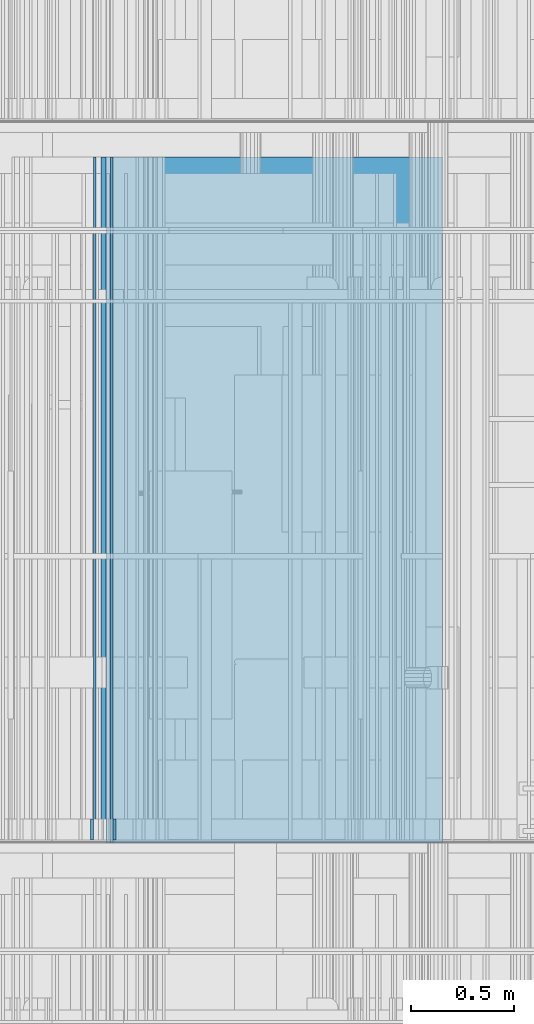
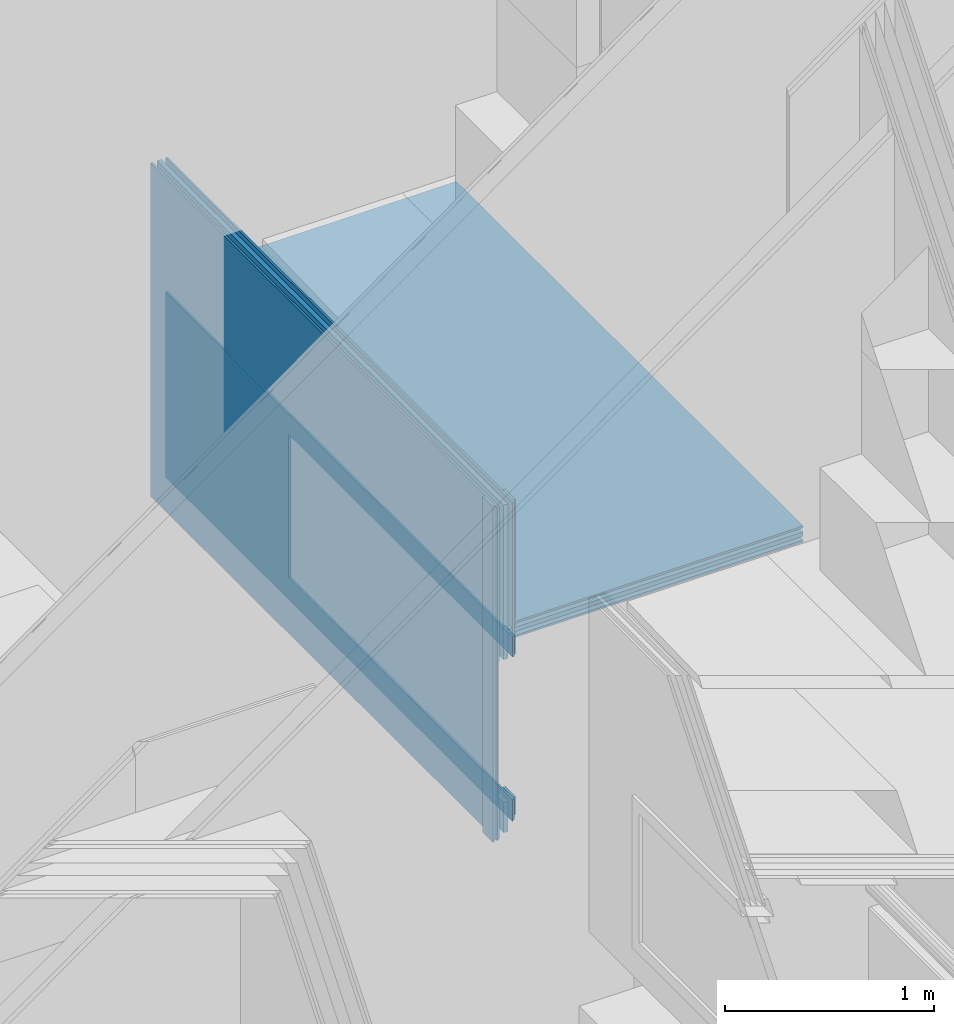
# One storey, part 80 of 583: 10 building element parts, 2 openings, 2 elements without a shape of their own.
"""IFC2X3 building model written with IfcOpenShell, lengths in metres."""

from ifc_helpers import new_model, entity, si_unit, converted_unit, derived_unit, money_unit, direction, frame, frame_2d, origin_with_axes, place, context, subcontext, project, spatial, polyline, rectangle, outline, extrude, material, type_object, element, aggregate, save


model = new_model("IFC2X3")

# Units and contexts
model_context = context("Model", 3, precision=1e-05, world=origin_with_axes(), true_north=direction((0.0, 1.0)))
body_context = subcontext(model_context, "Body", "Model", "MODEL_VIEW", scale=1.0)
ifc_project = project(units=[si_unit("LENGTHUNIT", "METRE"), si_unit("AREAUNIT", "SQUARE_METRE"), si_unit("VOLUMEUNIT", "CUBIC_METRE"), si_unit("ABSORBEDDOSEUNIT", "GRAY"), si_unit("AMOUNTOFSUBSTANCEUNIT", "MOLE"), si_unit("DOSEEQUIVALENTUNIT", "SIEVERT"), si_unit("ELECTRICCAPACITANCEUNIT", "FARAD"), si_unit("ELECTRICCHARGEUNIT", "COULOMB"), si_unit("ELECTRICCONDUCTANCEUNIT", "SIEMENS"), si_unit("ELECTRICCURRENTUNIT", "AMPERE"), si_unit("ELECTRICRESISTANCEUNIT", "OHM"), si_unit("ELECTRICVOLTAGEUNIT", "VOLT"), si_unit("ENERGYUNIT", "JOULE"), si_unit("FORCEUNIT", "NEWTON"), si_unit("FREQUENCYUNIT", "HERTZ"), si_unit("ILLUMINANCEUNIT", "LUX"), si_unit("INDUCTANCEUNIT", "HENRY"), si_unit("LUMINOUSFLUXUNIT", "LUMEN"), si_unit("LUMINOUSINTENSITYUNIT", "CANDELA"), si_unit("MAGNETICFLUXDENSITYUNIT", "TESLA"), si_unit("MAGNETICFLUXUNIT", "WEBER"), si_unit("MASSUNIT", "GRAM"), converted_unit("PLANEANGLEUNIT", "degree", entity("IfcReal", 0.0174532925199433), si_unit("PLANEANGLEUNIT", "RADIAN"), dimensions=[0, 0, 0, 0, 0, 0, 0]), si_unit("POWERUNIT", "WATT"), si_unit("PRESSUREUNIT", "PASCAL"), si_unit("RADIOACTIVITYUNIT", "BECQUEREL"), si_unit("SOLIDANGLEUNIT", "STERADIAN"), si_unit("THERMODYNAMICTEMPERATUREUNIT", "KELVIN"), si_unit("TIMEUNIT", "SECOND"), derived_unit("ACCELERATIONUNIT", [(si_unit("LENGTHUNIT", "METRE"), 1), (si_unit("TIMEUNIT", "SECOND"), -2)]), derived_unit("ANGULARVELOCITYUNIT", [(converted_unit("PLANEANGLEUNIT", "degree", entity("IfcReal", 0.0174532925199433), si_unit("PLANEANGLEUNIT", "RADIAN"), dimensions=[0, 0, 0, 0, 0, 0, 0]), 1), (si_unit("TIMEUNIT", "SECOND"), -1)]), derived_unit("CURVATUREUNIT", [(converted_unit("PLANEANGLEUNIT", "degree", entity("IfcReal", 0.0174532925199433), si_unit("PLANEANGLEUNIT", "RADIAN"), dimensions=[0, 0, 0, 0, 0, 0, 0]), 1), (si_unit("LENGTHUNIT", "METRE"), -1)]), derived_unit("DYNAMICVISCOSITYUNIT", [(si_unit("PRESSUREUNIT", "PASCAL"), 1), (si_unit("TIMEUNIT", "SECOND"), 1)]), derived_unit("HEATFLUXDENSITYUNIT", [(si_unit("POWERUNIT", "WATT"), 1), (si_unit("LENGTHUNIT", "METRE"), -2)]), derived_unit("HEATINGVALUEUNIT", [(si_unit("ENERGYUNIT", "JOULE"), 1), (si_unit("MASSUNIT", "GRAM"), -1)]), derived_unit("INTEGERCOUNTRATEUNIT", [(si_unit("TIMEUNIT", "SECOND"), -1)]), derived_unit("IONCONCENTRATIONUNIT", [(si_unit("MASSUNIT", "GRAM"), 1), (si_unit("VOLUMEUNIT", "CUBIC_METRE"), -1)]), derived_unit("ISOTHERMALMOISTURECAPACITYUNIT", [(si_unit("VOLUMEUNIT", "CUBIC_METRE"), 1), (si_unit("MASSUNIT", "GRAM"), -1)]), derived_unit("KINEMATICVISCOSITYUNIT", [(si_unit("AREAUNIT", "SQUARE_METRE"), 1), (si_unit("TIMEUNIT", "SECOND"), -1)]), derived_unit("LINEARFORCEUNIT", [(si_unit("FORCEUNIT", "NEWTON"), 1), (si_unit("LENGTHUNIT", "METRE"), -1)]), derived_unit("LINEARMOMENTUNIT", [(si_unit("FORCEUNIT", "NEWTON"), 1), (si_unit("LENGTHUNIT", "METRE"), -1)]), derived_unit("LINEARSTIFFNESSUNIT", [(si_unit("FORCEUNIT", "NEWTON"), 1), (si_unit("LENGTHUNIT", "METRE"), -1)]), derived_unit("LINEARVELOCITYUNIT", [(si_unit("LENGTHUNIT", "METRE"), 1), (si_unit("TIMEUNIT", "SECOND"), -1)]), derived_unit("LUMINOUSINTENSITYDISTRIBUTIONUNIT", [(si_unit("LUMINOUSINTENSITYUNIT", "CANDELA"), 1), (si_unit("LUMINOUSFLUXUNIT", "LUMEN"), -1)]), derived_unit("MASSDENSITYUNIT", [(si_unit("MASSUNIT", "GRAM"), 1), (si_unit("VOLUMEUNIT", "CUBIC_METRE"), -1)]), derived_unit("MASSFLOWRATEUNIT", [(si_unit("MASSUNIT", "GRAM"), 1), (si_unit("TIMEUNIT", "SECOND"), -1)]), derived_unit("MASSPERLENGTHUNIT", [(si_unit("MASSUNIT", "GRAM"), 1), (si_unit("LENGTHUNIT", "METRE"), -1)]), derived_unit("MODULUSOFELASTICITYUNIT", [(si_unit("FORCEUNIT", "NEWTON"), 1), (si_unit("AREAUNIT", "SQUARE_METRE"), -1)]), derived_unit("MODULUSOFLINEARSUBGRADEREACTIONUNIT", [(si_unit("FORCEUNIT", "NEWTON"), 1), (si_unit("LENGTHUNIT", "METRE"), -2)]), derived_unit("MODULUSOFROTATIONALSUBGRADEREACTIONUNIT", [(si_unit("FORCEUNIT", "NEWTON"), 1), (si_unit("LENGTHUNIT", "METRE"), 1)]), derived_unit("MODULUSOFSUBGRADEREACTIONUNIT", [(si_unit("FORCEUNIT", "NEWTON"), 1), (si_unit("VOLUMEUNIT", "CUBIC_METRE"), -1)]), derived_unit("MOISTUREDIFFUSIVITYUNIT", [(si_unit("VOLUMEUNIT", "CUBIC_METRE"), 1), (si_unit("TIMEUNIT", "SECOND"), -1)]), derived_unit("MOLECULARWEIGHTUNIT", [(si_unit("MASSUNIT", "GRAM"), 1), (si_unit("AMOUNTOFSUBSTANCEUNIT", "MOLE"), -1)]), derived_unit("PLANARFORCEUNIT", [(si_unit("FORCEUNIT", "NEWTON"), 1), (si_unit("LENGTHUNIT", "METRE"), -2)]), derived_unit("ROTATIONALFREQUENCYUNIT", [(si_unit("TIMEUNIT", "SECOND"), -1)]), derived_unit("ROTATIONALMASSUNIT", [(si_unit("MASSUNIT", "GRAM"), 1), (si_unit("LENGTHUNIT", "METRE"), 2)]), derived_unit("ROTATIONALSTIFFNESSUNIT", [(si_unit("FORCEUNIT", "NEWTON"), 1), (si_unit("LENGTHUNIT", "METRE"), 1), (converted_unit("PLANEANGLEUNIT", "degree", entity("IfcReal", 0.0174532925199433), si_unit("PLANEANGLEUNIT", "RADIAN"), dimensions=[0, 0, 0, 0, 0, 0, 0]), -1)]), derived_unit("SECTIONAREAINTEGRALUNIT", [(si_unit("LENGTHUNIT", "METRE"), 5)]), derived_unit("SECTIONMODULUSUNIT", [(si_unit("LENGTHUNIT", "METRE"), 3)]), derived_unit("SHEARMODULUSUNIT", [(si_unit("FORCEUNIT", "NEWTON"), 1), (si_unit("AREAUNIT", "SQUARE_METRE"), -1)]), derived_unit("SOUNDPOWERUNIT", [(si_unit("ENERGYUNIT", "JOULE"), 1), (si_unit("TIMEUNIT", "SECOND"), -1)]), derived_unit("SPECIFICHEATCAPACITYUNIT", [(si_unit("FORCEUNIT", "NEWTON"), 1), (si_unit("MASSUNIT", "GRAM"), -1), (si_unit("THERMODYNAMICTEMPERATUREUNIT", "KELVIN"), -1)]), derived_unit("TEMPERATUREGRADIENTUNIT", [(si_unit("THERMODYNAMICTEMPERATUREUNIT", "KELVIN"), 1), (si_unit("LENGTHUNIT", "METRE"), -1)]), derived_unit("THERMALADMITTANCEUNIT", [(si_unit("POWERUNIT", "WATT"), 1), (si_unit("AREAUNIT", "SQUARE_METRE"), -1), (si_unit("THERMODYNAMICTEMPERATUREUNIT", "KELVIN"), -1)]), derived_unit("THERMALCONDUCTANCEUNIT", [(si_unit("POWERUNIT", "WATT"), 1), (si_unit("LENGTHUNIT", "METRE"), -1), (si_unit("THERMODYNAMICTEMPERATUREUNIT", "KELVIN"), -1)]), derived_unit("THERMALEXPANSIONCOEFFICIENTUNIT", [(si_unit("THERMODYNAMICTEMPERATUREUNIT", "KELVIN"), -1)]), derived_unit("THERMALRESISTANCEUNIT", [(si_unit("AREAUNIT", "SQUARE_METRE"), 1), (si_unit("POWERUNIT", "WATT"), -1)]), derived_unit("THERMALTRANSMITTANCEUNIT", [(si_unit("POWERUNIT", "WATT"), 1), (si_unit("AREAUNIT", "SQUARE_METRE"), -1), (si_unit("THERMODYNAMICTEMPERATUREUNIT", "KELVIN"), -1)]), derived_unit("TORQUEUNIT", [(si_unit("FORCEUNIT", "NEWTON"), 1), (si_unit("LENGTHUNIT", "METRE"), 1)]), derived_unit("VAPORPERMEABILITYUNIT", [(si_unit("MASSUNIT", "GRAM"), 1), (si_unit("TIMEUNIT", "SECOND"), -1)]), derived_unit("VOLUMETRICFLOWRATEUNIT", [(si_unit("VOLUMEUNIT", "CUBIC_METRE"), 1), (si_unit("TIMEUNIT", "SECOND"), -1)]), derived_unit("WARPINGCONSTANTUNIT", [(si_unit("LENGTHUNIT", "METRE"), 6)]), derived_unit("WARPINGMOMENTUNIT", [(si_unit("FORCEUNIT", "NEWTON"), 1), (si_unit("LENGTHUNIT", "METRE"), 2)]), money_unit("GBP")], contexts=[model_context])

# Site, building, storey
site_placement = place(None, origin_with_axes())
site = spatial("IfcSite", under=ifc_project, at=site_placement, Name="Site", CompositionType="ELEMENT")
building_placement = place(site_placement, origin_with_axes())
building = spatial("IfcBuilding", under=site, at=building_placement, Name="Building01", CompositionType="ELEMENT")
storey_placement = place(building_placement, frame((0.0, 0.0, 20.78), z_axis=(0.0, 0.0, 1.0), x_axis=(1.0, 0.0, 0.0)))
storey = spatial("IfcBuildingStorey", under=building, at=storey_placement, Name="RL", CompositionType="ELEMENT", Elevation=20.78)

# Wall, openings, building element parts
wall_type = type_object("IfcWallType", Name="SHE_A-Walls_Type05a_Partition_95mm_tall", PredefinedType="NOTDEFINED")
wall_1_placement = place(storey_placement, frame((6.94, 8.64, 0.577661), z_axis=(0.0, 1.0, 0.0), x_axis=(0.0, 0.0, 1.0)))
wall_1 = element("IfcWall", 1, at=wall_1_placement, inside=storey, type_object=wall_type, Name="5A", ObjectType="SHE_A-Walls_Type05a_Partition_95mm_tall")
opening_1_placement = place(wall_1_placement, frame((0.177, 0.005, -0.015), z_axis=(0.0, 0.0, 1.0), x_axis=(1.0, 0.0, 0.0)))
element("IfcOpeningElement", 2, at=opening_1_placement, cuts=wall_1, Name="Opening", ObjectType="Opening", context=body_context, shape_type="SweptSolid", body=[
    extrude(rectangle(XDim=2.142, YDim=0.834, at=frame_2d((-0.417, 1.071), x_axis=(0.0, -1.0))), frame((0.0, -0.03, 0.0), z_axis=(0.0, 1.0, 0.0), x_axis=(-1.0, 0.0, 0.0)), (0.0, 0.0, 1.0), 0.06),
])
opening_2_placement = place(wall_1_placement, frame((0.177, 0.06, 0.0), z_axis=(0.0, 0.0, 1.0), x_axis=(1.0, 0.0, 0.0)))
element("IfcOpeningElement", 3, at=opening_2_placement, cuts=wall_1, Name="Opening", ObjectType="Opening", context=body_context, shape_type="SweptSolid", body=[
    extrude(rectangle(XDim=2.142, YDim=0.834, at=frame_2d((-0.417, 1.071), x_axis=(0.0, -1.0))), frame((0.0, -0.09, 0.0), z_axis=(0.0, 1.0, 0.0), x_axis=(-1.0, 0.0, 0.0)), (0.0, 0.0, 1.0), 0.18),
])
ifc_material_1 = material(Name="A_BSUK_Insulation")
placement_1 = place(wall_1_placement, origin_with_axes())
building_element_part_1 = element("IfcBuildingElementPart", 4, at=placement_1, material=ifc_material_1, Name="1", context=body_context, shape_type="SweptSolid", body=[
    extrude(rectangle(XDim=1.913868, YDim=0.025, at=frame_2d((0.956934, 0.0125), x_axis=(-1.0, 0.0))), origin_with_axes(), (0.0, 0.0, 1.0), 3.32),
])
ifc_material_2 = material(Name="A_BSUK_Walls_Timber")
building_element_part_2 = element("IfcBuildingElementPart", 5, at=placement_1, material=ifc_material_2, Name="2", context=body_context, shape_type="SweptSolid", body=[
    extrude(outline(polyline([(1.119, 0.075), (0.075, 0.075), (0.06, 0.06), (1.119, 0.06), (1.119, 0.075)])), frame((0.0, 0.0, 0.015), z_axis=(0.0, 0.0, 1.0), x_axis=(1.0, 0.0, 0.0)), (0.0, 0.0, 1.0), 0.1),
])
building_element_part_3 = element("IfcBuildingElementPart", 6, at=placement_1, material=ifc_material_2, Name="3", context=body_context, shape_type="SweptSolid", body=[
    extrude(outline(polyline([(1.913868, -0.035), (-0.035, -0.035), (-0.05, -0.05), (1.913868, -0.05), (1.913868, -0.035)])), frame((0.0, 0.0, 0.015), z_axis=(0.0, 0.0, 1.0), x_axis=(1.0, 0.0, 0.0)), (0.0, 0.0, 1.0), 0.1),
])
building_element_part_4 = element("IfcBuildingElementPart", 7, at=placement_1, material=ifc_material_2, Name="4", context=body_context, shape_type="SweptSolid", body=[
    extrude(outline(polyline([(1.913868, 0.075), (0.075, 0.075), (0.06, 0.06), (1.913868, 0.06), (1.913868, 0.075)])), frame((0.0, 0.0, 0.015), z_axis=(0.0, 0.0, 1.0), x_axis=(1.0, 0.0, 0.0)), (0.0, 0.0, 1.0), 0.1),
])
ifc_material_3 = material(Name="A_BSUK_WallInternal_Finishes_Plasterboard")
building_element_part_5 = element("IfcBuildingElementPart", 8, at=placement_1, material=ifc_material_3, Name="5", context=body_context, shape_type="SweptSolid", body=[
    extrude(outline(polyline([(1.131, 0.06), (0.06, 0.06), (0.048, 0.048), (1.131, 0.048), (1.131, 0.06)])), origin_with_axes(), (0.0, 0.0, 1.0), 3.32),
])
building_element_part_6 = element("IfcBuildingElementPart", 9, at=placement_1, material=ifc_material_3, Name="6", context=body_context, shape_type="SweptSolid", body=[
    extrude(outline(polyline([(1.913868, -0.023), (-0.023, -0.023), (-0.035, -0.035), (1.913868, -0.035), (1.913868, -0.023)])), origin_with_axes(), (0.0, 0.0, 1.0), 3.32),
])
building_element_part_7 = element("IfcBuildingElementPart", 10, at=placement_1, material=ifc_material_3, Name="7", context=body_context, shape_type="SweptSolid", body=[
    extrude(outline(polyline([(1.913868, 0.06), (0.06, 0.06), (0.048, 0.048), (1.913868, 0.048), (1.913868, 0.06)])), origin_with_axes(), (0.0, 0.0, 1.0), 3.32),
])
aggregate(wall_1, [building_element_part_1, building_element_part_2, building_element_part_3, building_element_part_4, building_element_part_5, building_element_part_6, building_element_part_7])

# Wall, building element parts
wall_2_placement = place(storey_placement, frame((6.965, 8.64, 1.756661), z_axis=(0.0, 1.0, 0.0), x_axis=(1.0, 0.0, 0.0)))
wall_2 = element("IfcWall", 11, at=wall_2_placement, inside=storey, type_object=wall_type, Name="5A", ObjectType="SHE_A-Walls_Type05a_Partition_95mm_tall")
placement_2 = place(wall_2_placement, origin_with_axes())
building_element_part_8 = element("IfcBuildingElementPart", 12, at=placement_2, material=ifc_material_1, Name="1", context=body_context, shape_type="SweptSolid", body=[
    extrude(rectangle(XDim=1.63, YDim=0.025, at=frame_2d((0.815, 0.0125), x_axis=(-1.0, 0.0))), origin_with_axes(), (0.0, 0.0, 1.0), 3.32),
])
building_element_part_9 = element("IfcBuildingElementPart", 13, at=placement_2, material=ifc_material_3, Name="4", context=body_context, shape_type="SweptSolid", body=[
    extrude(rectangle(XDim=1.595, YDim=0.012, at=frame_2d((0.8325, 0.054), x_axis=(-1.0, 0.0))), origin_with_axes(), (0.0, 0.0, 1.0), 3.32),
])
building_element_part_10 = element("IfcBuildingElementPart", 14, at=placement_2, material=ifc_material_3, Name="5", context=body_context, shape_type="SweptSolid", body=[
    extrude(rectangle(XDim=1.595, YDim=0.012, at=frame_2d((0.8325, -0.029), x_axis=(-1.0, 0.0))), origin_with_axes(), (0.0, 0.0, 1.0), 3.32),
])
aggregate(wall_2, [building_element_part_8, building_element_part_9, building_element_part_10])

save(model, "model.ifc")
